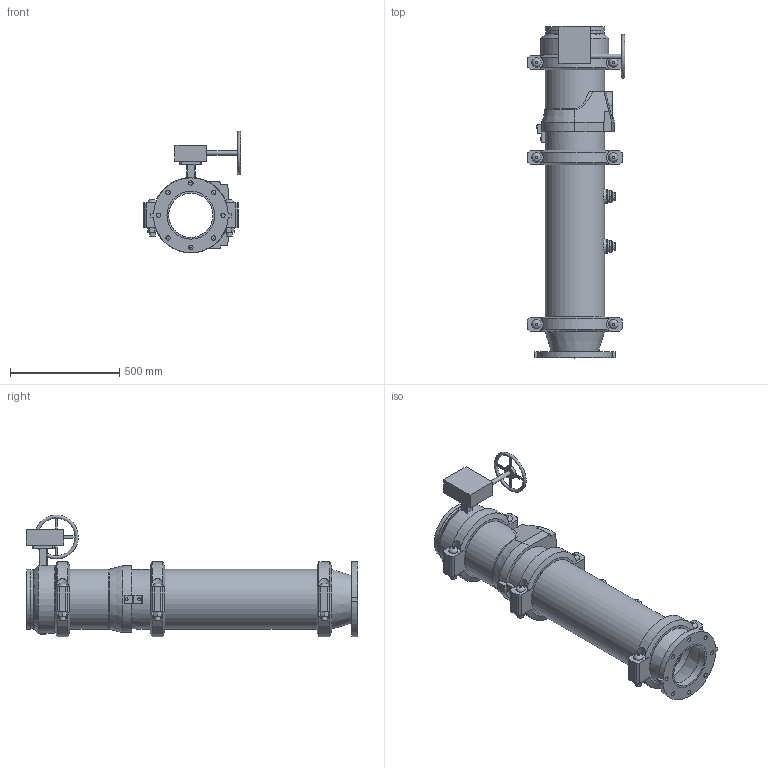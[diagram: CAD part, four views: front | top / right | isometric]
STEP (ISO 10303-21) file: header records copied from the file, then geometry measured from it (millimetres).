
FILE_DESCRIPTION(/* description */ ('VIC DVI PUMP DROP VERT S/390 (OGSxFLG)','CAx-IF Rec.Pracs.---Representation and Presentation of Product Manufacturing Information (PMI)---4.0---2014-10-13'),/* implementation_level */ '2;1');
FILE_NAME(/* name */ 'C:\Users\Vjadhav\AppData\Roaming\Autodesk\ApplicationPlugins\Back Up\Victaulic_IPS_Vertical DVI_PN10_Series 390 (OGSxFLG)\Victaulic_IPS_Vertical DVI_PN10_Series 390 (OGSxFLG)_10.0x08.0 (250x200).stp',/* time_stamp */ '2020-11-09T17:52:06+05:00',/* author */ ('Vjadhav'),/* organization */ ('Victaulic'),/* preprocessor_version */ 'ST-DEVELOPER v17.2',/* originating_system */ 'Autodesk Inventor 2019',/* authorisation */ '');
FILE_SCHEMA (('AP242_MANAGED_MODEL_BASED_3D_ENGINEERING_MIM_LF { 1 0 10303 442 1 1 4 }'));
Length unit declared in the file: inch
Products named in the file (8): 390-10.0x08.0; 741-08.0; 050-10.0x08.0; Pipe-10.0; 716-10.0; 923-10.0x0.75; 761-10.0; 077-10.0
Assembly tree (10 placements, depth 2):
  390-10.0x08.0
    741-08.0
    050-10.0x08.0
    Pipe-10.0
    716-10.0
    923-10.0x0.75  x2
    761-10.0
    077-10.0  x3
Bounding box: 445.64 x 1520.7 x 558.01 mm (x, y, z)
Volume: 28168716.4 mm3; surface area: 3934902.6 mm2
Topology: 10 solids, 17 shells, 475 faces, 1192 edges, 810 vertices
Faces by surface type: plane 283, cylinder 158, cone 20, bspline 8, torus 6
Full cylindrical faces by diameter (mm): 10.922 x4, 12.7 x3, 20.066 x9, 21.336 x2, 22.86 x1, 25.4 x12, 26.67 x2, 27.432 x6, 45.974 x4, 55.626 x2, 63.079 x1, 70.104 x1, 76.2 x2, 202.717 x1, 214.401 x1, 219.075 x3, 254.508 x3, 260.35 x1, 264.16 x3, 268.275 x7, 273.05 x19, 311.15 x1
Entity records: 10225 total; most frequent: CARTESIAN_POINT 2044, DIRECTION 1665, ORIENTED_EDGE 1512, EDGE_CURVE 756, AXIS2_PLACEMENT_3D 646, VERTEX_POINT 519, EDGE_LOOP 375, LINE 373
